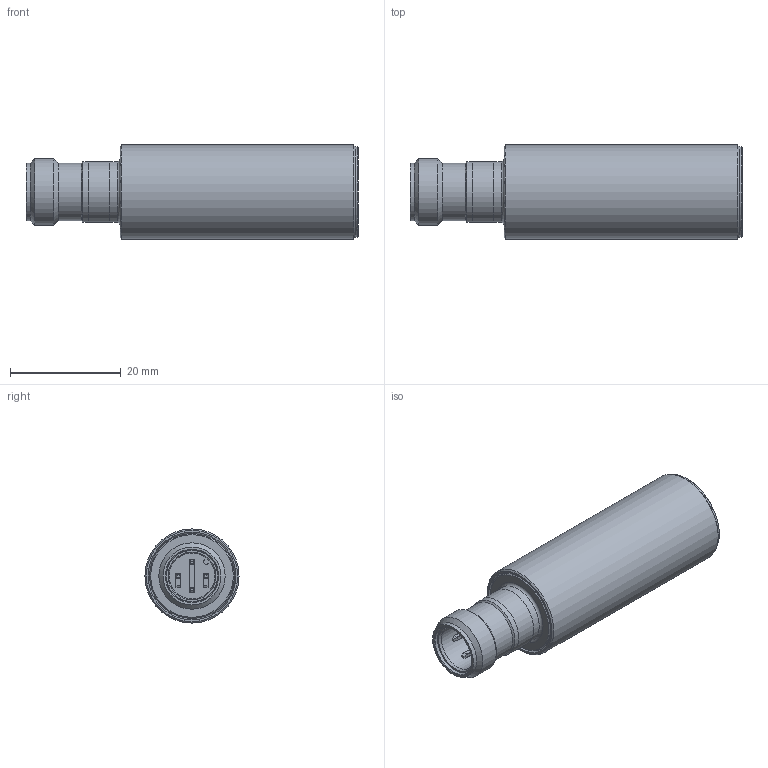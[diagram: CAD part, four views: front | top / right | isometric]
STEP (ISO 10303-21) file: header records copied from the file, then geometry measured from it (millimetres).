
FILE_DESCRIPTION( ( 'Unknown' ), '1' );
FILE_NAME( '//baumernet.org/ch01apps/SolidEdge/Models/Dokumentationen/Induktiv/IxBx 17/Vereinfachte Modelle/Neutralformate/IFBR 17xx7T1_S14L-9.stp', 'Unknown', ( 'Unknown' ), ( 'Unknown' ), 'PSStep 14.0', 'Unknown', ' ' );
FILE_SCHEMA( ( 'AUTOMOTIVE_DESIGN { 1 0 10303 214 1 1 1 1 }' ) );
Length unit declared in the file: millimetre
Products named in the file (1): 142551
Bounding box: 60 x 17 x 17 mm (x, y, z)
Volume: 10836.5 mm3; surface area: 3795.1 mm2
Topology: 1 solids, 1 shells, 109 faces, 282 edges, 185 vertices
Faces by surface type: plane 67, cylinder 30, cone 11, torus 1
Full cylindrical faces by diameter (mm): 9.45 x1, 10.45 x2, 11 x3, 12 x1, 15.34 x1, 16.4 x1, 17 x1
Entity records: 3996 total; most frequent: DIRECTION 550, CARTESIAN_POINT 539, ORIENTED_EDGE 504, EDGE_CURVE 252, AXIS2_PLACEMENT_3D 188, VERTEX_POINT 177, LINE 174, VECTOR 174
